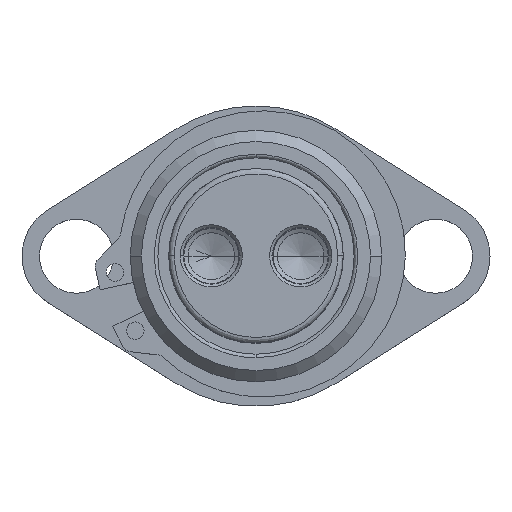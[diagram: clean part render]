
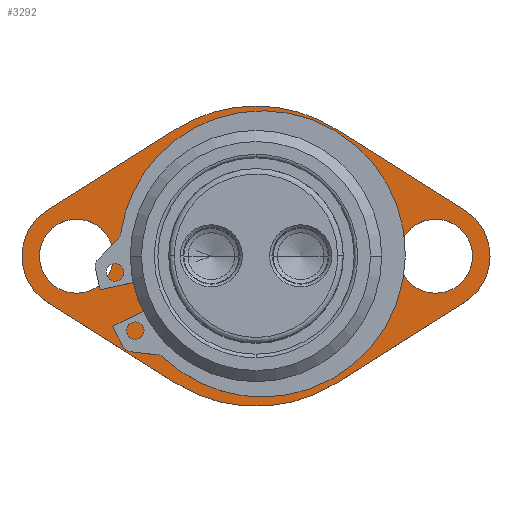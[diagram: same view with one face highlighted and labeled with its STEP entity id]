
A CAD part, top view. The second image highlights one B-rep face of the part: STEP entity #3292.
In plain terms, the highlighted planar face has unit normal (0, 0, 1) as drawn and (0, 1, 0) by its records, which use the part's own axes.
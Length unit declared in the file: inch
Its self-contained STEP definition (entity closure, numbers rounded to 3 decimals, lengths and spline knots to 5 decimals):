
#63 = DIRECTION ( 'NONE',  ( 0., 0., -1. ) ) ;
#72 = LINE ( 'NONE', #1853, #3575 ) ;
#97 = EDGE_CURVE ( 'NONE', #3968, #2875, #2147, .T. ) ;
#116 = EDGE_CURVE ( 'NONE', #4592, #5742, #3549, .T. ) ;
#120 = AXIS2_PLACEMENT_3D ( 'NONE', #5445, #1490, #3688 ) ;
#132 = CIRCLE ( 'NONE', #5392, 0.9 ) ;
#142 = VERTEX_POINT ( 'NONE', #311 ) ;
#211 = CIRCLE ( 'NONE', #4411, 0.9 ) ;
#274 = CIRCLE ( 'NONE', #5103, 0.265 ) ;
#311 = CARTESIAN_POINT ( 'NONE',  ( 0.57305, 0.25, -0.90952 ) ) ;
#322 = ORIENTED_EDGE ( 'NONE', *, *, #1026, .F. ) ;
#339 = ORIENTED_EDGE ( 'NONE', *, *, #3554, .T. ) ;
#351 = CARTESIAN_POINT ( 'NONE',  ( 0., 0.25, -0.9 ) ) ;
#373 = CARTESIAN_POINT ( 'NONE',  ( -1.4929, 0.25, -0.32997 ) ) ;
#402 = CARTESIAN_POINT ( 'NONE',  ( -1.285, 0.25, 0. ) ) ;
#519 = EDGE_CURVE ( 'NONE', #5080, #2118, #211, .T. ) ;
#581 = AXIS2_PLACEMENT_3D ( 'NONE', #3008, #779, #4784 ) ;
#585 = DIRECTION ( 'NONE',  ( 0., 0., -1. ) ) ;
#621 = CARTESIAN_POINT ( 'NONE',  ( 0.57305, 0.25, 0.90952 ) ) ;
#622 = CARTESIAN_POINT ( 'NONE',  ( -1.4929, 0.25, 0.32997 ) ) ;
#692 = LINE ( 'NONE', #621, #2112 ) ;
#755 = DIRECTION ( 'NONE',  ( -0.846, 0., 0.533 ) ) ;
#769 = EDGE_CURVE ( 'NONE', #3968, #3819, #692, .T. ) ;
#779 = DIRECTION ( 'NONE',  ( 0., -1., 0. ) ) ;
#871 = ORIENTED_EDGE ( 'NONE', *, *, #519, .T. ) ;
#886 = CARTESIAN_POINT ( 'NONE',  ( -1.285, 0.25, 0.265 ) ) ;
#926 = CARTESIAN_POINT ( 'NONE',  ( -1.285, 0.25, 0. ) ) ;
#995 = EDGE_CURVE ( 'NONE', #4540, #3717, #1191, .T. ) ;
#1026 = EDGE_CURVE ( 'NONE', #4988, #5415, #1112, .T. ) ;
#1041 = FACE_OUTER_BOUND ( 'NONE', #3974, .T. ) ;
#1112 = CIRCLE ( 'NONE', #120, 1.075 ) ;
#1120 = CIRCLE ( 'NONE', #581, 1.075 ) ;
#1191 = CIRCLE ( 'NONE', #4294, 0.265 ) ;
#1203 = ORIENTED_EDGE ( 'NONE', *, *, #3336, .T. ) ;
#1261 = DIRECTION ( 'NONE',  ( 0., 0., -1. ) ) ;
#1308 = AXIS2_PLACEMENT_3D ( 'NONE', #4070, #1365, #5719 ) ;
#1365 = DIRECTION ( 'NONE',  ( 0., 1., 0. ) ) ;
#1427 = CARTESIAN_POINT ( 'NONE',  ( -0.57305, 0.25, 0.90952 ) ) ;
#1470 = ORIENTED_EDGE ( 'NONE', *, *, #4714, .F. ) ;
#1471 = VERTEX_POINT ( 'NONE', #5744 ) ;
#1480 = CARTESIAN_POINT ( 'NONE',  ( -1.285, 0.25, -0.265 ) ) ;
#1490 = DIRECTION ( 'NONE',  ( 0., -1., 0. ) ) ;
#1504 = DIRECTION ( 'NONE',  ( 0., -1., 0. ) ) ;
#1513 = DIRECTION ( 'NONE',  ( 0., -1., 0. ) ) ;
#1596 = AXIS2_PLACEMENT_3D ( 'NONE', #1934, #1513, #585 ) ;
#1599 = LINE ( 'NONE', #622, #2521 ) ;
#1711 = ORIENTED_EDGE ( 'NONE', *, *, #97, .F. ) ;
#1724 = CARTESIAN_POINT ( 'NONE',  ( -1.285, 0.25, 0. ) ) ;
#1850 = ORIENTED_EDGE ( 'NONE', *, *, #769, .T. ) ;
#1853 = CARTESIAN_POINT ( 'NONE',  ( 0.57305, 0.25, -0.90952 ) ) ;
#1934 = CARTESIAN_POINT ( 'NONE',  ( 1.285, 0.25, 0. ) ) ;
#1952 = FACE_BOUND ( 'NONE', #3886, .T. ) ;
#1956 = DIRECTION ( 'NONE',  ( 0.846, 0., 0.533 ) ) ;
#2112 = VECTOR ( 'NONE', #4670, 39.37008 ) ;
#2118 = VERTEX_POINT ( 'NONE', #351 ) ;
#2147 = CIRCLE ( 'NONE', #4999, 1.075 ) ;
#2163 = CARTESIAN_POINT ( 'NONE',  ( 1.285, 0.25, -0.265 ) ) ;
#2178 = DIRECTION ( 'NONE',  ( 0., 0., -1. ) ) ;
#2203 = CARTESIAN_POINT ( 'NONE',  ( 1.285, 0.25, 0. ) ) ;
#2225 = DIRECTION ( 'NONE',  ( 0., 0., -1. ) ) ;
#2332 = DIRECTION ( 'NONE',  ( -0.846, 0., -0.533 ) ) ;
#2398 = CARTESIAN_POINT ( 'NONE',  ( 0., 0.25, 0. ) ) ;
#2400 = CARTESIAN_POINT ( 'NONE',  ( -0.57305, 0.25, -0.90952 ) ) ;
#2521 = VECTOR ( 'NONE', #1956, 39.37008 ) ;
#2522 = CARTESIAN_POINT ( 'NONE',  ( 1.285, 0.25, 0.265 ) ) ;
#2603 = LINE ( 'NONE', #373, #3367 ) ;
#2612 = AXIS2_PLACEMENT_3D ( 'NONE', #402, #5320, #3068 ) ;
#2710 = EDGE_CURVE ( 'NONE', #5462, #3570, #3214, .T. ) ;
#2875 = VERTEX_POINT ( 'NONE', #1427 ) ;
#3008 = CARTESIAN_POINT ( 'NONE',  ( 0., 0.25, 0. ) ) ;
#3068 = DIRECTION ( 'NONE',  ( 0., 0., -1. ) ) ;
#3106 = AXIS2_PLACEMENT_3D ( 'NONE', #4902, #4481, #1261 ) ;
#3120 = AXIS2_PLACEMENT_3D ( 'NONE', #1724, #5199, #2178 ) ;
#3214 = CIRCLE ( 'NONE', #2612, 0.265 ) ;
#3272 = ORIENTED_EDGE ( 'NONE', *, *, #3380, .T. ) ;
#3291 = CIRCLE ( 'NONE', #1596, 0.265 ) ;
#3292 = ADVANCED_FACE ( 'NONE', ( #4495, #1041, #4282, #1952 ), #5332, .T. ) ;
#3306 = EDGE_CURVE ( 'NONE', #3570, #5462, #274, .T. ) ;
#3336 = EDGE_CURVE ( 'NONE', #1471, #142, #72, .T. ) ;
#3367 = VECTOR ( 'NONE', #755, 39.37008 ) ;
#3380 = EDGE_CURVE ( 'NONE', #2118, #5080, #132, .T. ) ;
#3456 = DIRECTION ( 'NONE',  ( 0., 0., -1. ) ) ;
#3538 = EDGE_CURVE ( 'NONE', #3717, #4540, #3291, .T. ) ;
#3549 = CIRCLE ( 'NONE', #3120, 0.39 ) ;
#3554 = EDGE_CURVE ( 'NONE', #4592, #2875, #1599, .T. ) ;
#3570 = VERTEX_POINT ( 'NONE', #1480 ) ;
#3574 = CARTESIAN_POINT ( 'NONE',  ( -1.4929, 0.25, 0.32997 ) ) ;
#3575 = VECTOR ( 'NONE', #2332, 39.37008 ) ;
#3667 = ORIENTED_EDGE ( 'NONE', *, *, #116, .F. ) ;
#3688 = DIRECTION ( 'NONE',  ( 0., 0., -1. ) ) ;
#3692 = DIRECTION ( 'NONE',  ( 0., -1., 0. ) ) ;
#3714 = CIRCLE ( 'NONE', #3106, 0.39 ) ;
#3717 = VERTEX_POINT ( 'NONE', #2522 ) ;
#3784 = ORIENTED_EDGE ( 'NONE', *, *, #4773, .T. ) ;
#3819 = VERTEX_POINT ( 'NONE', #3828 ) ;
#3828 = CARTESIAN_POINT ( 'NONE',  ( 1.4929, 0.25, 0.32997 ) ) ;
#3886 = EDGE_LOOP ( 'NONE', ( #3272, #871 ) ) ;
#3968 = VERTEX_POINT ( 'NONE', #5210 ) ;
#3974 = EDGE_LOOP ( 'NONE', ( #322, #3784, #3667, #339, #1711, #1850, #4459, #1203, #1470 ) ) ;
#4070 = CARTESIAN_POINT ( 'NONE',  ( -1.285, 0.25, 0. ) ) ;
#4282 = FACE_BOUND ( 'NONE', #5601, .T. ) ;
#4292 = EDGE_LOOP ( 'NONE', ( #5676, #4552 ) ) ;
#4294 = AXIS2_PLACEMENT_3D ( 'NONE', #2203, #5284, #4534 ) ;
#4411 = AXIS2_PLACEMENT_3D ( 'NONE', #2398, #1504, #5467 ) ;
#4459 = ORIENTED_EDGE ( 'NONE', *, *, #4533, .F. ) ;
#4481 = DIRECTION ( 'NONE',  ( 0., -1., 0. ) ) ;
#4495 = FACE_BOUND ( 'NONE', #4292, .T. ) ;
#4533 = EDGE_CURVE ( 'NONE', #1471, #3819, #3714, .T. ) ;
#4534 = DIRECTION ( 'NONE',  ( 0., 0., -1. ) ) ;
#4540 = VERTEX_POINT ( 'NONE', #2163 ) ;
#4552 = ORIENTED_EDGE ( 'NONE', *, *, #2710, .T. ) ;
#4571 = ORIENTED_EDGE ( 'NONE', *, *, #3538, .T. ) ;
#4592 = VERTEX_POINT ( 'NONE', #3574 ) ;
#4650 = CARTESIAN_POINT ( 'NONE',  ( 0., 0.25, 0.9 ) ) ;
#4670 = DIRECTION ( 'NONE',  ( 0.846, 0., -0.533 ) ) ;
#4689 = ORIENTED_EDGE ( 'NONE', *, *, #995, .T. ) ;
#4714 = EDGE_CURVE ( 'NONE', #5415, #142, #1120, .T. ) ;
#4772 = CARTESIAN_POINT ( 'NONE',  ( 0., 0.25, 0. ) ) ;
#4773 = EDGE_CURVE ( 'NONE', #4988, #5742, #2603, .T. ) ;
#4784 = DIRECTION ( 'NONE',  ( 0., 0., -1. ) ) ;
#4844 = CARTESIAN_POINT ( 'NONE',  ( 0., 0.25, -1.075 ) ) ;
#4902 = CARTESIAN_POINT ( 'NONE',  ( 1.285, 0.25, 0. ) ) ;
#4916 = DIRECTION ( 'NONE',  ( 0., -1., 0. ) ) ;
#4971 = CARTESIAN_POINT ( 'NONE',  ( 0., 0.25, 0. ) ) ;
#4988 = VERTEX_POINT ( 'NONE', #2400 ) ;
#4999 = AXIS2_PLACEMENT_3D ( 'NONE', #4772, #5254, #3456 ) ;
#5058 = CARTESIAN_POINT ( 'NONE',  ( -1.4929, 0.25, -0.32997 ) ) ;
#5080 = VERTEX_POINT ( 'NONE', #4650 ) ;
#5103 = AXIS2_PLACEMENT_3D ( 'NONE', #926, #4916, #2225 ) ;
#5199 = DIRECTION ( 'NONE',  ( 0., -1., 0. ) ) ;
#5210 = CARTESIAN_POINT ( 'NONE',  ( 0.57305, 0.25, 0.90952 ) ) ;
#5254 = DIRECTION ( 'NONE',  ( 0., -1., 0. ) ) ;
#5284 = DIRECTION ( 'NONE',  ( 0., -1., 0. ) ) ;
#5320 = DIRECTION ( 'NONE',  ( 0., -1., 0. ) ) ;
#5332 = PLANE ( 'NONE',  #1308 ) ;
#5392 = AXIS2_PLACEMENT_3D ( 'NONE', #4971, #3692, #63 ) ;
#5415 = VERTEX_POINT ( 'NONE', #4844 ) ;
#5445 = CARTESIAN_POINT ( 'NONE',  ( 0., 0.25, 0. ) ) ;
#5462 = VERTEX_POINT ( 'NONE', #886 ) ;
#5467 = DIRECTION ( 'NONE',  ( 0., 0., -1. ) ) ;
#5601 = EDGE_LOOP ( 'NONE', ( #4689, #4571 ) ) ;
#5676 = ORIENTED_EDGE ( 'NONE', *, *, #3306, .T. ) ;
#5719 = DIRECTION ( 'NONE',  ( 0., 0., 1. ) ) ;
#5742 = VERTEX_POINT ( 'NONE', #5058 ) ;
#5744 = CARTESIAN_POINT ( 'NONE',  ( 1.4929, 0.25, -0.32997 ) ) ;
